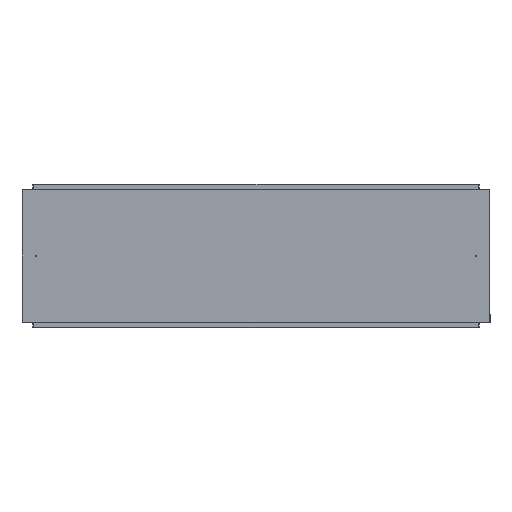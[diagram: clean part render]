
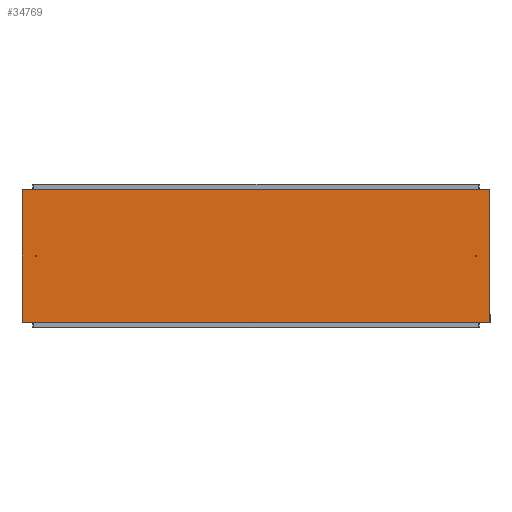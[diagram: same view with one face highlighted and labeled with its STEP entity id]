
A CAD part, left-side view. The second image highlights one B-rep face of the part: STEP entity #34769.
In plain terms, the highlighted planar face has unit normal (-1, 0, 0) as drawn and (0, 0, -1) by its records, which use the part's own axes.
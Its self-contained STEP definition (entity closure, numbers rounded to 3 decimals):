
#1648 = ORIENTED_EDGE ( 'NONE', *, *, #14151, .F. ) ;
#2865 = PLANE ( 'NONE',  #11724 ) ;
#5990 = CARTESIAN_POINT ( 'NONE',  ( -283.49, 998.5, 0. ) ) ;
#6772 = VECTOR ( 'NONE', #32750, 1000. ) ;
#8248 = ORIENTED_EDGE ( 'NONE', *, *, #46831, .F. ) ;
#9508 = CARTESIAN_POINT ( 'NONE',  ( -283.49, 998.5, 0. ) ) ;
#10717 = VECTOR ( 'NONE', #17469, 1000. ) ;
#10941 = CARTESIAN_POINT ( 'NONE',  ( -283.49, 998.5, 0. ) ) ;
#11724 = AXIS2_PLACEMENT_3D ( 'NONE', #42128, #31112, #79575 ) ;
#14151 = EDGE_CURVE ( 'NONE', #106141, #67094, #94230, .T. ) ;
#17469 = DIRECTION ( 'NONE',  ( -1., 0., 0. ) ) ;
#18974 = ORIENTED_EDGE ( 'NONE', *, *, #59148, .F. ) ;
#24409 = LINE ( 'NONE', #5990, #10717 ) ;
#24540 = VECTOR ( 'NONE', #38340, 1000. ) ;
#31112 = DIRECTION ( 'NONE',  ( 0., 0., 1. ) ) ;
#32750 = DIRECTION ( 'NONE',  ( 0., 1., 0. ) ) ;
#32762 = EDGE_LOOP ( 'NONE', ( #1648, #18974, #8248, #103144 ) ) ;
#33974 = LINE ( 'NONE', #70796, #77659 ) ;
#34769 = ADVANCED_FACE ( 'NONE', ( #88788 ), #2865, .F. ) ;
#34831 = VERTEX_POINT ( 'NONE', #91198 ) ;
#38340 = DIRECTION ( 'NONE',  ( 0., -1., 0. ) ) ;
#42128 = CARTESIAN_POINT ( 'NONE',  ( -283.49, -998.5, 0. ) ) ;
#43579 = CARTESIAN_POINT ( 'NONE',  ( 283.49, 998.5, 0. ) ) ;
#46831 = EDGE_CURVE ( 'NONE', #34831, #76816, #61557, .T. ) ;
#48328 = EDGE_CURVE ( 'NONE', #67094, #34831, #33974, .T. ) ;
#59148 = EDGE_CURVE ( 'NONE', #76816, #106141, #24409, .T. ) ;
#61557 = LINE ( 'NONE', #91006, #6772 ) ;
#62727 = CARTESIAN_POINT ( 'NONE',  ( -283.49, -998.5, 0. ) ) ;
#67094 = VERTEX_POINT ( 'NONE', #62727 ) ;
#70796 = CARTESIAN_POINT ( 'NONE',  ( -283.49, -998.5, 0. ) ) ;
#76816 = VERTEX_POINT ( 'NONE', #43579 ) ;
#77659 = VECTOR ( 'NONE', #81218, 1000. ) ;
#79575 = DIRECTION ( 'NONE',  ( 1., 0., 0. ) ) ;
#81218 = DIRECTION ( 'NONE',  ( 1., 0., 0. ) ) ;
#88788 = FACE_OUTER_BOUND ( 'NONE', #32762, .T. ) ;
#91006 = CARTESIAN_POINT ( 'NONE',  ( 283.49, 998.5, 0. ) ) ;
#91198 = CARTESIAN_POINT ( 'NONE',  ( 283.49, -998.5, 0. ) ) ;
#94230 = LINE ( 'NONE', #9508, #24540 ) ;
#103144 = ORIENTED_EDGE ( 'NONE', *, *, #48328, .F. ) ;
#106141 = VERTEX_POINT ( 'NONE', #10941 ) ;
